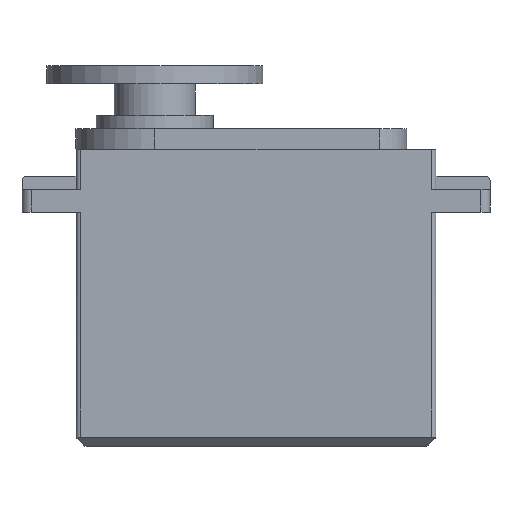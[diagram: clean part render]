
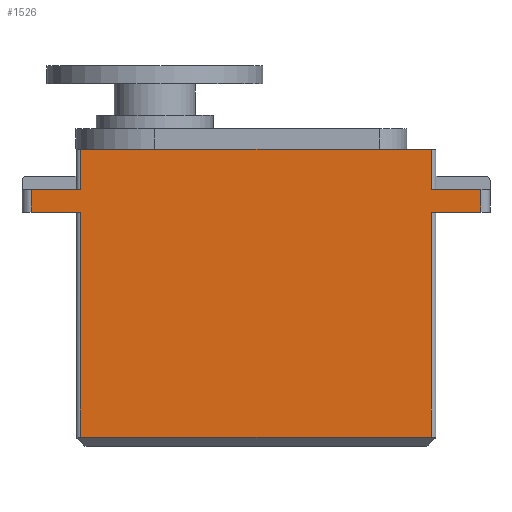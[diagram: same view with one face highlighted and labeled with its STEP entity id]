
A CAD part, left-side view. The second image highlights one B-rep face of the part: STEP entity #1526.
In plain terms, the highlighted planar face has unit normal (-1, 0, 0).
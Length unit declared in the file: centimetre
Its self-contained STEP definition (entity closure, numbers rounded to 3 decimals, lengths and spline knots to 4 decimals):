
#387=VERTEX_POINT('',#5765);
#388=VERTEX_POINT('',#5767);
#402=VERTEX_POINT('',#5802);
#403=VERTEX_POINT('',#5804);
#419=VERTEX_POINT('',#5839);
#420=VERTEX_POINT('',#5840);
#440=VERTEX_POINT('',#5896);
#441=VERTEX_POINT('',#5898);
#442=VERTEX_POINT('',#5901);
#443=VERTEX_POINT('',#5903);
#444=VERTEX_POINT('',#5905);
#445=VERTEX_POINT('',#5907);
#552=EDGE_CURVE('',#387,#388,#2912,.T.);
#571=EDGE_CURVE('',#403,#402,#2922,.T.);
#591=EDGE_CURVE('',#420,#419,#2922,.T.);
#621=EDGE_CURVE('',#403,#387,#2947,.T.);
#622=EDGE_CURVE('',#440,#402,#2948,.T.);
#623=EDGE_CURVE('',#440,#441,#2949,.T.);
#624=EDGE_CURVE('',#420,#441,#2950,.T.);
#625=EDGE_CURVE('',#442,#419,#2951,.T.);
#626=EDGE_CURVE('',#443,#442,#2952,.T.);
#627=EDGE_CURVE('',#444,#443,#2953,.T.);
#628=EDGE_CURVE('',#445,#444,#2954,.T.);
#629=EDGE_CURVE('',#388,#445,#2955,.T.);
#885=ORIENTED_EDGE('',*,*,#621,.F.);
#886=ORIENTED_EDGE('',*,*,#571,.T.);
#887=ORIENTED_EDGE('',*,*,#622,.F.);
#888=ORIENTED_EDGE('',*,*,#623,.T.);
#889=ORIENTED_EDGE('',*,*,#624,.F.);
#890=ORIENTED_EDGE('',*,*,#591,.T.);
#891=ORIENTED_EDGE('',*,*,#625,.F.);
#892=ORIENTED_EDGE('',*,*,#626,.F.);
#893=ORIENTED_EDGE('',*,*,#627,.F.);
#894=ORIENTED_EDGE('',*,*,#628,.F.);
#895=ORIENTED_EDGE('',*,*,#629,.F.);
#896=ORIENTED_EDGE('',*,*,#552,.F.);
#1232=EDGE_LOOP('',(#885,#886,#887,#888,#889,#890,#891,#892,#893,#894,#895,
#896));
#1379=FACE_BOUND('',#1232,.T.);
#1526=ADVANCED_FACE('',(#1379),#4556,.T.);
#2912=LINE('',#5766,#4428);
#2922=LINE('',#5803,#4438);
#2947=LINE('',#5893,#4463);
#2948=LINE('',#5895,#4464);
#2949=LINE('',#5897,#4465);
#2950=LINE('',#5899,#4466);
#2951=LINE('',#5900,#4467);
#2952=LINE('',#5902,#4468);
#2953=LINE('',#5904,#4469);
#2954=LINE('',#5906,#4470);
#2955=LINE('',#5908,#4471);
#4129=AXIS2_PLACEMENT_3D('',#5894,#5062,$);
#4428=VECTOR('',#4949,1.);
#4438=VECTOR('',#4982,1.);
#4463=VECTOR('',#5061,1.);
#4464=VECTOR('',#5063,1.);
#4465=VECTOR('',#5064,1.);
#4466=VECTOR('',#5065,1.);
#4467=VECTOR('',#5066,1.);
#4468=VECTOR('',#5067,1.);
#4469=VECTOR('',#5068,1.);
#4470=VECTOR('',#5069,1.);
#4471=VECTOR('',#5070,1.);
#4556=PLANE('',#4129);
#4949=DIRECTION('',(0.,1.,0.));
#4982=DIRECTION('',(0.,1.,0.));
#5061=DIRECTION('',(0.,0.,-1.));
#5062=DIRECTION('',(-1.,0.,0.));
#5063=DIRECTION('',(0.,0.,-1.));
#5064=DIRECTION('',(0.,1.,0.));
#5065=DIRECTION('',(0.,0.,1.));
#5066=DIRECTION('',(0.,0.,1.));
#5067=DIRECTION('',(0.,1.,0.));
#5068=DIRECTION('',(0.,0.,1.));
#5069=DIRECTION('',(0.,1.,0.));
#5070=DIRECTION('',(0.,0.,-1.));
#5765=CARTESIAN_POINT('',(-2.,-0.5,2.6));
#5766=CARTESIAN_POINT('',(-2.,2.,2.6));
#5767=CARTESIAN_POINT('',(-2.,0.05,2.6));
#5802=CARTESIAN_POINT('',(-2.,0.05,2.85));
#5803=CARTESIAN_POINT('',(-2.,4.6,2.85));
#5804=CARTESIAN_POINT('',(-2.,-0.5,2.85));
#5839=CARTESIAN_POINT('',(-2.,4.5,2.85));
#5840=CARTESIAN_POINT('',(-2.,3.95,2.85));
#5893=CARTESIAN_POINT('',(-2.,-0.5,1.3));
#5894=CARTESIAN_POINT('',(-2.,2.,0.));
#5895=CARTESIAN_POINT('',(-2.,0.05,1.425));
#5896=CARTESIAN_POINT('',(-2.,0.05,3.3));
#5897=CARTESIAN_POINT('',(-2.,4.,3.3));
#5898=CARTESIAN_POINT('',(-2.,3.95,3.3));
#5899=CARTESIAN_POINT('',(-2.,3.95,1.425));
#5900=CARTESIAN_POINT('',(-2.,4.5,1.3));
#5901=CARTESIAN_POINT('',(-2.,4.5,2.6));
#5902=CARTESIAN_POINT('',(-2.,2.,2.6));
#5903=CARTESIAN_POINT('',(-2.,3.95,2.6));
#5904=CARTESIAN_POINT('',(-2.,3.95,0.));
#5905=CARTESIAN_POINT('',(-2.,3.95,0.1));
#5906=CARTESIAN_POINT('',(-2.,2.,0.1));
#5907=CARTESIAN_POINT('',(-2.,0.05,0.1));
#5908=CARTESIAN_POINT('',(-2.,0.05,0.));
